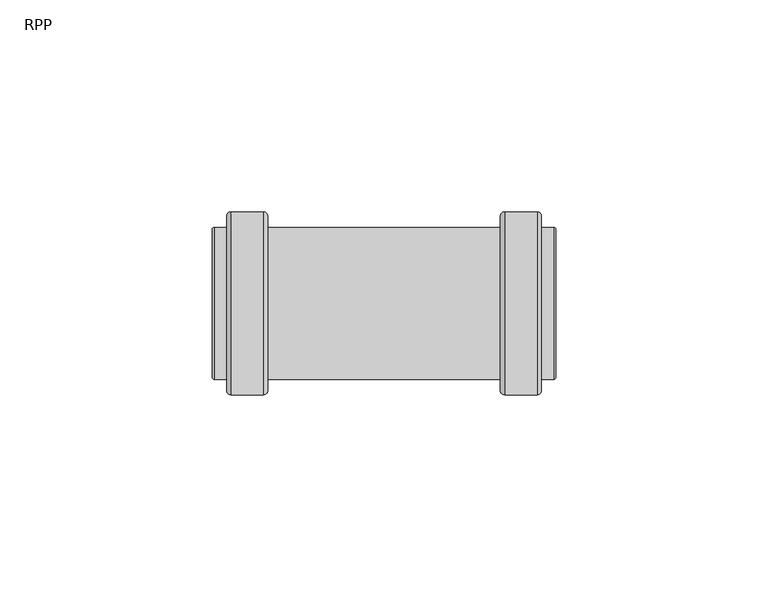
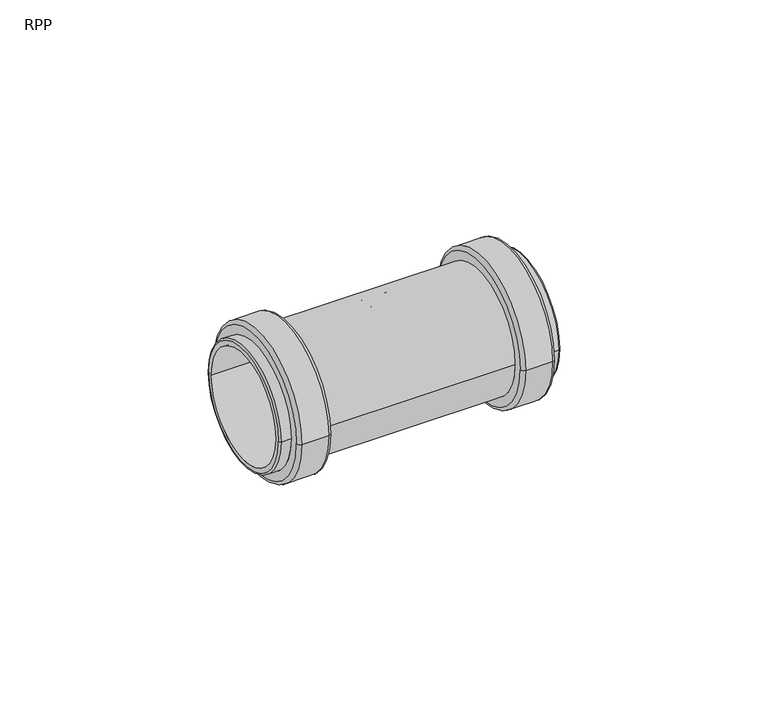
"""IFC4 building model written with IfcOpenShell, lengths in millimetres: pipe fitting geometry, RAUPIANO PLUS Double socket : RPP."""

from ifc_helpers import new_model, si_unit, point, frame, origin, place, context, project, spatial, polyline, circle_curve, ellipse_curve, trimmed, source, transform, mapped, element, save
from ifc_brep_helpers import plane_surface, cylinder_surface, revolved_surface, advanced_brep


def rpp_0868c568(model_context):
    return source(origin(), model_context, "Body", "AdvancedBrep", [
        advanced_brep(
        [(-36.1, 21.55, 0.0), (-36.1, -21.55, 0.0), (-37.1, -20.55, 0.0), (-37.1, 20.55, 0.0), (-28.4, 21.55, 0.0), (-28.4, -21.55, 0.0), (-27.4, 20.55, 0.0), (-27.4, -20.55, 0.0), (27.4, 17.9, 0.0), (27.4, -17.9, 0.0), (-27.4, -17.9, 0.0), (-27.4, 17.9, 0.0), (28.4, 21.55, 0.0), (28.4, -21.55, 0.0), (27.4, -20.55, 0.0), (27.4, 20.55, 0.0), (36.1, 21.55, 0.0), (36.1, -21.55, 0.0), (37.1, 20.55, 0.0), (37.1, -20.55, 0.0), (40.0, 17.9, 0.0), (40.0, -17.9, 0.0), (37.1, -17.9, 0.0), (37.1, 17.9, 0.0), (40.5, 17.4, 0.0), (40.5, -17.4, 0.0), (1.0, 16.0, 0.0), (1.0, -16.0, 0.0), (40.5, -16.0, 0.0), (40.5, 16.0, 0.0), (-1.0, 13.69828, 0.0), (-1.0, -13.69828, 0.0), (1.0, -13.69828, 0.0), (1.0, 13.69828, 0.0), (-40.5, 16.0, 0.0), (-40.5, -16.0, 0.0), (-1.0, -16.0, 0.0), (-1.0, 16.0, 0.0), (-40.0, 17.9, 0.0), (-40.0, -17.9, 0.0), (-40.5, -17.4, 0.0), (-40.5, 17.4, 0.0), (-37.1, 17.9, 0.0), (-37.1, -17.9, 0.0)],
        [
            (0, 1, circle_curve(frame((-36.1, 0.0, 0.0), z_axis=(-1.0, 0.0, 0.0), x_axis=(0.0, -1.0, 0.0)), 21.55)),
            (1, 2, circle_curve(frame((-36.1, -20.55, 0.0), z_axis=(0.0, 0.0, -1.0), x_axis=(1.0, 0.0, 0.0)), 1.0)),
            (2, 3, circle_curve(frame((-37.1, 0.0, 0.0), z_axis=(1.0, 0.0, 0.0), x_axis=(0.0, -1.0, 0.0)), 20.55)),
            (3, 0, circle_curve(frame((-36.1, 20.55, 0.0), z_axis=(0.0, 0.0, -1.0), x_axis=(1.0, 0.0, 0.0)), 1.0)),
            (4, 5, circle_curve(frame((-28.4, 0.0, 0.0), z_axis=(-1.0, 0.0, 0.0), x_axis=(0.0, -1.0, 0.0)), 21.55)),
            (5, 1),
            (0, 4),
            (6, 7, circle_curve(frame((-27.4, 0.0, 0.0), z_axis=(-1.0, 0.0, 0.0), x_axis=(0.0, -1.0, 0.0)), 20.55)),
            (7, 5, circle_curve(frame((-28.4, -20.55, 0.0), z_axis=(0.0, 0.0, -1.0), x_axis=(1.0, 0.0, 0.0)), 1.0)),
            (4, 6, circle_curve(frame((-28.4, 20.55, 0.0), z_axis=(0.0, 0.0, -1.0), x_axis=(1.0, 0.0, 0.0)), 1.0)),
            (8, 9, circle_curve(frame((27.4, 0.0, 0.0), z_axis=(-1.0, 0.0, 0.0), x_axis=(0.0, -1.0, 0.0)), 17.9)),
            (9, 10),
            (10, 11, circle_curve(frame((-27.4, 0.0, 0.0), z_axis=(1.0, 0.0, 0.0), x_axis=(0.0, -1.0, 0.0)), 17.9)),
            (11, 8),
            (12, 13, circle_curve(frame((28.4, 0.0, 0.0), z_axis=(-1.0, 0.0, 0.0), x_axis=(0.0, -1.0, 0.0)), 21.55)),
            (13, 14, circle_curve(frame((28.4, -20.55, 0.0), z_axis=(0.0, 0.0, -1.0), x_axis=(1.0, 0.0, 0.0)), 1.0)),
            (14, 15, circle_curve(frame((27.4, 0.0, 0.0), z_axis=(1.0, 0.0, 0.0), x_axis=(0.0, -1.0, 0.0)), 20.55)),
            (15, 12, circle_curve(frame((28.4, 20.55, 0.0), z_axis=(0.0, 0.0, -1.0), x_axis=(1.0, 0.0, 0.0)), 1.0)),
            (16, 17, circle_curve(frame((36.1, 0.0, 0.0), z_axis=(-1.0, 0.0, 0.0), x_axis=(0.0, -1.0, 0.0)), 21.55)),
            (17, 13),
            (12, 16),
            (18, 19, circle_curve(frame((37.1, 0.0, 0.0), z_axis=(-1.0, 0.0, 0.0), x_axis=(0.0, -1.0, 0.0)), 20.55)),
            (19, 17, circle_curve(frame((36.1, -20.55, 0.0), z_axis=(0.0, 0.0, -1.0), x_axis=(1.0, 0.0, 0.0)), 1.0)),
            (16, 18, circle_curve(frame((36.1, 20.55, 0.0), z_axis=(0.0, 0.0, -1.0), x_axis=(1.0, 0.0, 0.0)), 1.0)),
            (20, 21, circle_curve(frame((40.0, 0.0, 0.0), z_axis=(-1.0, 0.0, 0.0), x_axis=(0.0, -1.0, 0.0)), 17.9)),
            (21, 22),
            (22, 23, circle_curve(frame((37.1, 0.0, 0.0), z_axis=(1.0, 0.0, 0.0), x_axis=(0.0, -1.0, 0.0)), 17.9)),
            (23, 20),
            (24, 25, circle_curve(frame((40.5, 0.0, 0.0), z_axis=(-1.0, 0.0, 0.0), x_axis=(0.0, -1.0, 0.0)), 17.4)),
            (25, 21, circle_curve(frame((40.0, -17.4, 0.0), z_axis=(0.0, 0.0, -1.0), x_axis=(1.0, 0.0, 0.0)), 0.5)),
            (20, 24, circle_curve(frame((40.0, 17.4, 0.0), z_axis=(0.0, 0.0, -1.0), x_axis=(1.0, 0.0, 0.0)), 0.5)),
            (26, 27, circle_curve(frame((1.0, 0.0, 0.0), z_axis=(-1.0, 0.0, 0.0), x_axis=(0.0, -1.0, 0.0)), 16.0)),
            (27, 28),
            (28, 29, circle_curve(frame((40.5, 0.0, 0.0), z_axis=(1.0, 0.0, 0.0), x_axis=(0.0, -1.0, 0.0)), 16.0)),
            (29, 26),
            (30, 31, circle_curve(frame((-1.0, 0.0, 0.0), z_axis=(-1.0, 0.0, 0.0), x_axis=(0.0, -1.0, 0.0)), 13.69828)),
            (31, 32),
            (32, 33, circle_curve(frame((1.0, 0.0, 0.0), z_axis=(1.0, 0.0, 0.0), x_axis=(0.0, -1.0, 0.0)), 13.69828)),
            (33, 30),
            (34, 35, circle_curve(frame((-40.5, 0.0, 0.0), z_axis=(-1.0, 0.0, 0.0), x_axis=(0.0, -1.0, 0.0)), 16.0)),
            (35, 36),
            (36, 37, circle_curve(frame((-1.0, 0.0, 0.0), z_axis=(1.0, 0.0, 0.0), x_axis=(0.0, -1.0, 0.0)), 16.0)),
            (37, 34),
            (38, 39, circle_curve(frame((-40.0, 0.0, 0.0), z_axis=(-1.0, 0.0, 0.0), x_axis=(0.0, -1.0, 0.0)), 17.9)),
            (39, 40, circle_curve(frame((-40.0, -17.4, 0.0), z_axis=(0.0, 0.0, -1.0), x_axis=(1.0, 0.0, 0.0)), 0.5)),
            (40, 41, circle_curve(frame((-40.5, 0.0, 0.0), z_axis=(1.0, 0.0, 0.0), x_axis=(0.0, -1.0, 0.0)), 17.4)),
            (41, 38, circle_curve(frame((-40.0, 17.4, 0.0), z_axis=(0.0, 0.0, -1.0), x_axis=(1.0, 0.0, 0.0)), 0.5)),
            (42, 43, circle_curve(frame((-37.1, 0.0, 0.0), z_axis=(-1.0, 0.0, 0.0), x_axis=(0.0, -1.0, 0.0)), 17.9)),
            (43, 39),
            (38, 42),
            (2, 3, circle_curve(frame((-37.1, 0.0, 0.0), z_axis=(-1.0, 0.0, 0.0), x_axis=(0.0, 1.0, 0.0)), 20.55)),
            (42, 43, circle_curve(frame((-37.1, 0.0, 0.0), z_axis=(1.0, 0.0, 0.0), x_axis=(0.0, 1.0, 0.0)), 17.9)),
            (1, 0, circle_curve(frame((-36.1, 0.0, 0.0), z_axis=(-1.0, 0.0, 0.0), x_axis=(0.0, 1.0, 0.0)), 21.55)),
            (5, 4, circle_curve(frame((-28.4, 0.0, 0.0), z_axis=(-1.0, 0.0, 0.0), x_axis=(0.0, 1.0, 0.0)), 21.55)),
            (7, 6, circle_curve(frame((-27.4, 0.0, 0.0), z_axis=(-1.0, 0.0, 0.0), x_axis=(0.0, 1.0, 0.0)), 20.55)),
            (10, 11, circle_curve(frame((-27.4, 0.0, 0.0), z_axis=(-1.0, 0.0, 0.0), x_axis=(0.0, 1.0, 0.0)), 17.9)),
            (9, 8, circle_curve(frame((27.4, 0.0, 0.0), z_axis=(-1.0, 0.0, 0.0), x_axis=(0.0, 1.0, 0.0)), 17.9)),
            (14, 15, circle_curve(frame((27.4, 0.0, 0.0), z_axis=(-1.0, 0.0, 0.0), x_axis=(0.0, 1.0, 0.0)), 20.55)),
            (13, 12, circle_curve(frame((28.4, 0.0, 0.0), z_axis=(-1.0, 0.0, 0.0), x_axis=(0.0, 1.0, 0.0)), 21.55)),
            (17, 16, circle_curve(frame((36.1, 0.0, 0.0), z_axis=(-1.0, 0.0, 0.0), x_axis=(0.0, 1.0, 0.0)), 21.55)),
            (19, 18, circle_curve(frame((37.1, 0.0, 0.0), z_axis=(-1.0, 0.0, 0.0), x_axis=(0.0, 1.0, 0.0)), 20.55)),
            (22, 23, circle_curve(frame((37.1, 0.0, 0.0), z_axis=(-1.0, 0.0, 0.0), x_axis=(0.0, 1.0, 0.0)), 17.9)),
            (21, 20, circle_curve(frame((40.0, 0.0, 0.0), z_axis=(-1.0, 0.0, 0.0), x_axis=(0.0, 1.0, 0.0)), 17.9)),
            (25, 24, circle_curve(frame((40.5, 0.0, 0.0), z_axis=(-1.0, 0.0, 0.0), x_axis=(0.0, 1.0, 0.0)), 17.4)),
            (28, 29, circle_curve(frame((40.5, 0.0, 0.0), z_axis=(-1.0, 0.0, 0.0), x_axis=(0.0, 1.0, 0.0)), 16.0)),
            (27, 26, circle_curve(frame((1.0, 0.0, 0.0), z_axis=(-1.0, 0.0, 0.0), x_axis=(0.0, 1.0, 0.0)), 16.0)),
            (32, 33, circle_curve(frame((1.0, 0.0, 0.0), z_axis=(-1.0, 0.0, 0.0), x_axis=(0.0, 1.0, 0.0)), 13.69828)),
            (31, 30, circle_curve(frame((-1.0, 0.0, 0.0), z_axis=(-1.0, 0.0, 0.0), x_axis=(0.0, 1.0, 0.0)), 13.69828)),
            (36, 37, circle_curve(frame((-1.0, 0.0, 0.0), z_axis=(-1.0, 0.0, 0.0), x_axis=(0.0, 1.0, 0.0)), 16.0)),
            (35, 34, circle_curve(frame((-40.5, 0.0, 0.0), z_axis=(-1.0, 0.0, 0.0), x_axis=(0.0, 1.0, 0.0)), 16.0)),
            (40, 41, circle_curve(frame((-40.5, 0.0, 0.0), z_axis=(-1.0, 0.0, 0.0), x_axis=(0.0, 1.0, 0.0)), 17.4)),
            (39, 38, circle_curve(frame((-40.0, 0.0, 0.0), z_axis=(-1.0, 0.0, 0.0), x_axis=(0.0, 1.0, 0.0)), 17.9)),
        ],
        [
            revolved_surface(trimmed(ellipse_curve(frame((-36.1, -20.55, 0.0), z_axis=(0.0, 0.0, 1.0), x_axis=(1.0, 0.0, 0.0)), 1.0, 1.0), [point((-37.1, -20.55, 0.0))], [point((-36.1, -21.55, 0.0))], True, "CARTESIAN"), (0.0, 0.0, 0.0), (1.0, 0.0, 0.0)),
            cylinder_surface(frame((0.0, 0.0, 0.0), z_axis=(1.0, 0.0, 0.0), x_axis=(0.0, -1.0, 0.0)), 21.55),
            revolved_surface(trimmed(ellipse_curve(frame((-28.4, -20.55, 0.0), z_axis=(0.0, 0.0, 1.0), x_axis=(1.0, 0.0, 0.0)), 1.0, 1.0), [point((-28.4, -21.55, 0.0))], [point((-27.4, -20.55, 0.0))], True, "CARTESIAN"), (0.0, 0.0, 0.0), (1.0, 0.0, 0.0)),
            cylinder_surface(frame((0.0, 0.0, 0.0), z_axis=(1.0, 0.0, 0.0), x_axis=(0.0, -1.0, 0.0)), 17.9),
            revolved_surface(trimmed(ellipse_curve(frame((28.4, -20.55, 0.0), z_axis=(0.0, 0.0, 1.0), x_axis=(1.0, 0.0, 0.0)), 1.0, 1.0), [point((27.4, -20.55, 0.0))], [point((28.4, -21.55, 0.0))], True, "CARTESIAN"), (0.0, 0.0, 0.0), (1.0, 0.0, 0.0)),
            revolved_surface(trimmed(ellipse_curve(frame((36.1, -20.55, 0.0), z_axis=(0.0, 0.0, 1.0), x_axis=(1.0, 0.0, 0.0)), 1.0, 1.0), [point((36.1, -21.55, 0.0))], [point((37.1, -20.55, 0.0))], True, "CARTESIAN"), (0.0, 0.0, 0.0), (1.0, 0.0, 0.0)),
            revolved_surface(trimmed(ellipse_curve(frame((40.0, -17.4, 0.0), z_axis=(0.0, 0.0, 1.0), x_axis=(1.0, 0.0, 0.0)), 0.5, 0.5), [point((40.0, -17.9, 0.0))], [point((40.5, -17.4, 0.0))], True, "CARTESIAN"), (0.0, 0.0, 0.0), (1.0, 0.0, 0.0)),
            revolved_surface(polyline([(40.5, -16.0, 0.0), (1.0, -16.0, 0.0)]), (0.0, 0.0, 0.0), (1.0, 0.0, 0.0)),
            revolved_surface(polyline([(1.0, -13.69828, 0.0), (-1.0, -13.69828, 0.0)]), (0.0, 0.0, 0.0), (1.0, 0.0, 0.0)),
            revolved_surface(polyline([(-1.0, -16.0, 0.0), (-40.5, -16.0, 0.0)]), (0.0, 0.0, 0.0), (1.0, 0.0, 0.0)),
            revolved_surface(trimmed(ellipse_curve(frame((-40.0, -17.4, 0.0), z_axis=(0.0, 0.0, 1.0), x_axis=(1.0, 0.0, 0.0)), 0.5, 0.5), [point((-40.5, -17.4, 0.0))], [point((-40.0, -17.9, 0.0))], True, "CARTESIAN"), (0.0, 0.0, 0.0), (1.0, 0.0, 0.0)),
            plane_surface(frame((-37.1, 0.0, 0.0), z_axis=(-1.0, 0.0, 0.0), x_axis=(0.0, 1.0, 0.0))),
            revolved_surface(trimmed(ellipse_curve(frame((-36.1, 20.55, 0.0), z_axis=(0.0, 0.0, -1.0), x_axis=(1.0, 0.0, 0.0)), 1.0, 1.0), [point((-37.1, 20.55, 0.0))], [point((-36.1, 21.55, 0.0))], True, "CARTESIAN"), (0.0, 0.0, 0.0), (1.0, 0.0, 0.0)),
            cylinder_surface(frame((0.0, 0.0, 0.0), z_axis=(1.0, 0.0, 0.0), x_axis=(0.0, 1.0, 0.0)), 21.55),
            revolved_surface(trimmed(ellipse_curve(frame((-28.4, 20.55, 0.0), z_axis=(0.0, 0.0, -1.0), x_axis=(1.0, 0.0, 0.0)), 1.0, 1.0), [point((-28.4, 21.55, 0.0))], [point((-27.4, 20.55, 0.0))], True, "CARTESIAN"), (0.0, 0.0, 0.0), (1.0, 0.0, 0.0)),
            plane_surface(frame((-27.4, 0.0, 0.0), z_axis=(1.0, 0.0, 0.0), x_axis=(0.0, 1.0, 0.0))),
            cylinder_surface(frame((0.0, 0.0, 0.0), z_axis=(1.0, 0.0, 0.0), x_axis=(0.0, 1.0, 0.0)), 17.9),
            plane_surface(frame((27.4, 0.0, 0.0), z_axis=(-1.0, 0.0, 0.0), x_axis=(0.0, 1.0, 0.0))),
            revolved_surface(trimmed(ellipse_curve(frame((28.4, 20.55, 0.0), z_axis=(0.0, 0.0, -1.0), x_axis=(1.0, 0.0, 0.0)), 1.0, 1.0), [point((27.4, 20.55, 0.0))], [point((28.4, 21.55, 0.0))], True, "CARTESIAN"), (0.0, 0.0, 0.0), (1.0, 0.0, 0.0)),
            revolved_surface(trimmed(ellipse_curve(frame((36.1, 20.55, 0.0), z_axis=(0.0, 0.0, -1.0), x_axis=(1.0, 0.0, 0.0)), 1.0, 1.0), [point((36.1, 21.55, 0.0))], [point((37.1, 20.55, 0.0))], True, "CARTESIAN"), (0.0, 0.0, 0.0), (1.0, 0.0, 0.0)),
            plane_surface(frame((37.1, 0.0, 0.0), z_axis=(1.0, 0.0, 0.0), x_axis=(0.0, 1.0, 0.0))),
            revolved_surface(trimmed(ellipse_curve(frame((40.0, 17.4, 0.0), z_axis=(0.0, 0.0, -1.0), x_axis=(1.0, 0.0, 0.0)), 0.5, 0.5), [point((40.0, 17.9, 0.0))], [point((40.5, 17.4, 0.0))], True, "CARTESIAN"), (0.0, 0.0, 0.0), (1.0, 0.0, 0.0)),
            plane_surface(frame((40.5, 0.0, 0.0), z_axis=(1.0, 0.0, 0.0), x_axis=(0.0, 1.0, 0.0))),
            revolved_surface(polyline([(40.5, 16.0, 0.0), (1.0, 16.0, 0.0)]), (0.0, 0.0, 0.0), (1.0, 0.0, 0.0)),
            plane_surface(frame((1.0, 0.0, 0.0), z_axis=(1.0, 0.0, 0.0), x_axis=(0.0, 1.0, 0.0))),
            revolved_surface(polyline([(1.0, 13.69828, 0.0), (-1.0, 13.69828, 0.0)]), (0.0, 0.0, 0.0), (1.0, 0.0, 0.0)),
            plane_surface(frame((-1.0, 0.0, 0.0), z_axis=(-1.0, 0.0, 0.0), x_axis=(0.0, 1.0, 0.0))),
            revolved_surface(polyline([(-1.0, 16.0, 0.0), (-40.5, 16.0, 0.0)]), (0.0, 0.0, 0.0), (1.0, 0.0, 0.0)),
            plane_surface(frame((-40.5, 0.0, 0.0), z_axis=(-1.0, 0.0, 0.0), x_axis=(0.0, 1.0, 0.0))),
            revolved_surface(trimmed(ellipse_curve(frame((-40.0, 17.4, 0.0), z_axis=(0.0, 0.0, -1.0), x_axis=(1.0, 0.0, 0.0)), 0.5, 0.5), [point((-40.5, 17.4, 0.0))], [point((-40.0, 17.9, 0.0))], True, "CARTESIAN"), (0.0, 0.0, 0.0), (1.0, 0.0, 0.0)),
        ],
        [
            (0, [[1, 2, 3, 4]]),
            (1, [[5, 6, -1, 7]]),
            (2, [[8, 9, -5, 10]]),
            (3, [[11, 12, 13, 14]]),
            (4, [[15, 16, 17, 18]]),
            (1, [[19, 20, -15, 21]]),
            (5, [[22, 23, -19, 24]]),
            (3, [[25, 26, 27, 28]]),
            (6, [[29, 30, -25, 31]]),
            (7, [[32, 33, 34, 35]]),
            (8, [[36, 37, 38, 39]]),
            (9, [[40, 41, 42, 43]]),
            (10, [[44, 45, 46, 47]]),
            (3, [[48, 49, -44, 50]]),
            (11, [[51, -3], [52, -48]]),
            (12, [[53, -4, -51, -2]]),
            (13, [[54, -7, -53, -6]]),
            (14, [[55, -10, -54, -9]]),
            (15, [[-55, -8], [56, -13]]),
            (16, [[57, -14, -56, -12]]),
            (17, [[58, -17], [-57, -11]]),
            (18, [[59, -18, -58, -16]]),
            (13, [[60, -21, -59, -20]]),
            (19, [[61, -24, -60, -23]]),
            (20, [[-61, -22], [62, -27]]),
            (16, [[63, -28, -62, -26]]),
            (21, [[64, -31, -63, -30]]),
            (22, [[-64, -29], [65, -34]]),
            (23, [[66, -35, -65, -33]]),
            (24, [[-66, -32], [67, -38]]),
            (25, [[68, -39, -67, -37]]),
            (26, [[69, -42], [-68, -36]]),
            (27, [[70, -43, -69, -41]]),
            (28, [[71, -46], [-70, -40]]),
            (29, [[72, -47, -71, -45]]),
            (16, [[-52, -50, -72, -49]]),
        ],
    ),
    ])


if __name__ == "__main__":
    model = new_model("IFC4")
    model_context = context("Model", 3, world=origin())
    ifc_project = project(units=[si_unit("LENGTHUNIT", "METRE", prefix="MILLI")], contexts=[model_context])
    site = spatial("IfcSite", under=ifc_project)
    building = spatial("IfcBuilding", under=site)
    placement = place(None, origin())
    rpp_shape = rpp_0868c568(model_context)
    element("IfcPipeFitting", 1, ObjectType="RAUPIANO PLUS Double socket : RPP", at=placement, inside=building, context=model_context, shape_type="MappedRepresentation", body=[
        mapped(rpp_shape, transform((0.0, 0.0, 0.0), x_axis=(1.0, 0.0, 0.0), y_axis=(0.0, 1.0, 0.0), z_axis=(0.0, 0.0, 1.0))),
    ])
    save(model, "model.ifc")
